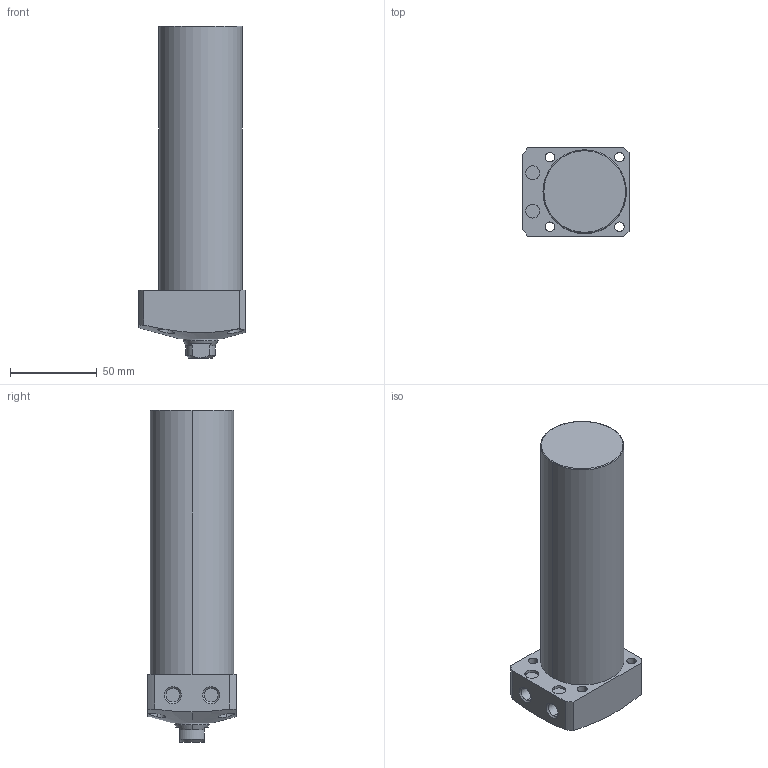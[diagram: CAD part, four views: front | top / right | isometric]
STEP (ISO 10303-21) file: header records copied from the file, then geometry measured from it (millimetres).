
FILE_DESCRIPTION (( 'STEP AP203' ), '1' );
FILE_NAME ('CLL-048CA-125.STEP', '2019-12-21T07:26:20', ( '' ), ( '' ), 'SwSTEP 2.0', 'SolidWorks 2015', '' );
FILE_SCHEMA (( 'CONFIG_CONTROL_DESIGN' ));
Length unit declared in the file: millimetre
Products named in the file (1): CLL-048CA-125
Bounding box: 61 x 51 x 191 mm (x, y, z)
Volume: 349253.1 mm3; surface area: 37697.5 mm2
Topology: 1 solids, 1 shells, 74 faces, 170 edges, 107 vertices
Faces by surface type: cylinder 35, plane 22, cone 15, torus 2
Entity records: 2535 total; most frequent: CARTESIAN_POINT 748, DIRECTION 374, ORIENTED_EDGE 336, EDGE_CURVE 168, AXIS2_PLACEMENT_3D 155, VERTEX_POINT 107, EDGE_LOOP 93, CIRCLE 80
